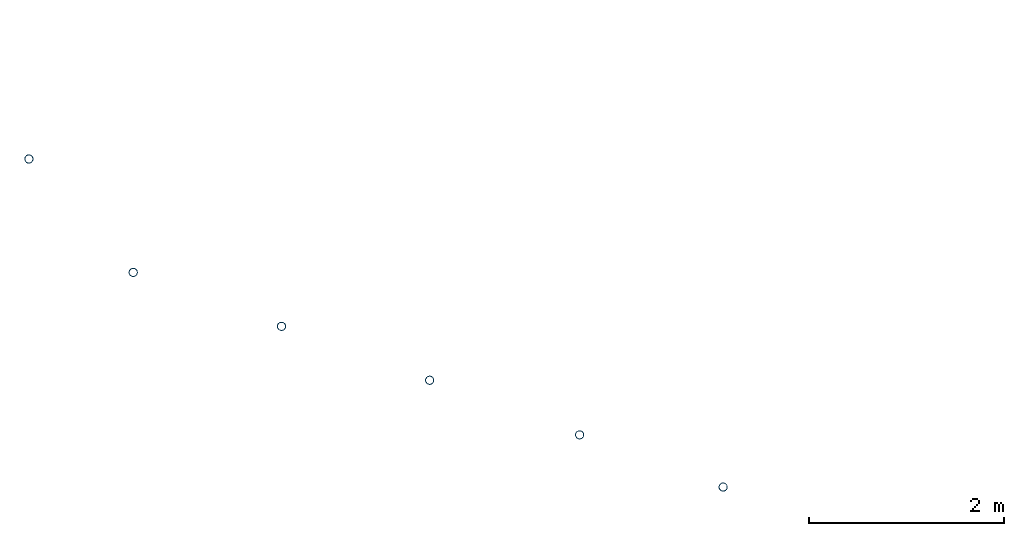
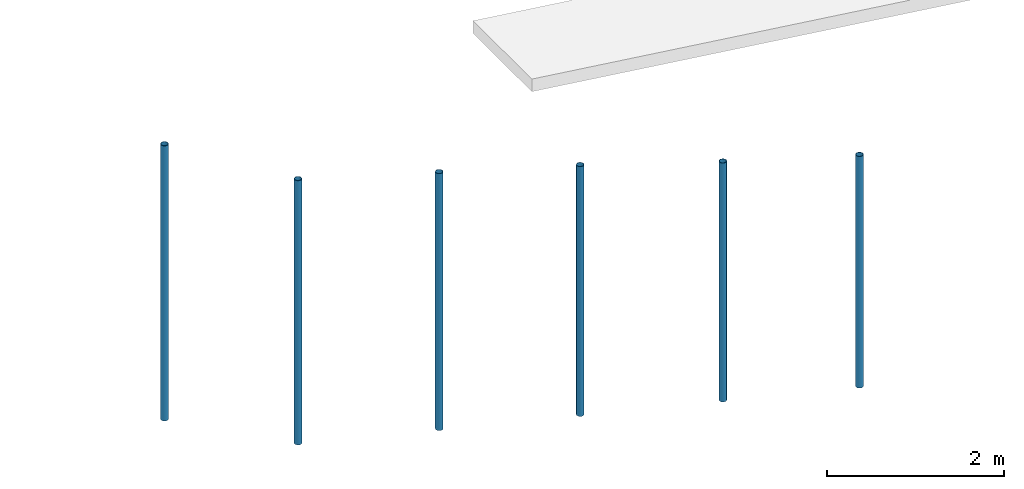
# One storey, part 1 of 5: 6 columns.
"""IFC2X3 building model written with IfcOpenShell, lengths in millimetres."""

from ifc_helpers import new_model, entity, si_unit, converted_unit, derived_unit, direction, frame, frame_2d, origin, place, context, subcontext, project, spatial, hollow_circle, extrude, source, transform, mapped, material, material_list, type_object, type_shapes, element, save


model = new_model("IFC2X3")

# Units and contexts
model_context = context("Model", 3, precision=0.01, world=origin(), true_north=direction((6.12303176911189e-17, 1.0)))
context_of_model = context(None, 3, precision=0.01, world=origin(), true_north=direction((6.12303176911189e-17, 1.0)))
body_context = subcontext(model_context, "Body", "Model", "MODEL_VIEW")
ifc_project = project(units=[si_unit("LENGTHUNIT", "METRE", prefix="MILLI"), si_unit("AREAUNIT", "SQUARE_METRE"), si_unit("VOLUMEUNIT", "CUBIC_METRE"), converted_unit("PLANEANGLEUNIT", "DEGREE", entity("IfcRatioMeasure", 0.0174532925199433), si_unit("PLANEANGLEUNIT", "RADIAN"), dimensions=[0, 0, 0, 0, 0, 0, 0]), si_unit("MASSUNIT", "GRAM", prefix="KILO"), derived_unit("MASSDENSITYUNIT", [(si_unit("MASSUNIT", "GRAM", prefix="KILO"), 1), (si_unit("LENGTHUNIT", "METRE"), -3)]), derived_unit("MOMENTOFINERTIAUNIT", [(si_unit("LENGTHUNIT", "METRE"), 4)]), si_unit("TIMEUNIT", "SECOND"), si_unit("FREQUENCYUNIT", "HERTZ"), si_unit("THERMODYNAMICTEMPERATUREUNIT", "DEGREE_CELSIUS"), derived_unit("THERMALTRANSMITTANCEUNIT", [(si_unit("MASSUNIT", "GRAM", prefix="KILO"), 1), (si_unit("THERMODYNAMICTEMPERATUREUNIT", "KELVIN"), -1), (si_unit("TIMEUNIT", "SECOND"), -3)]), derived_unit("VOLUMETRICFLOWRATEUNIT", [(si_unit("LENGTHUNIT", "METRE"), 3), (si_unit("TIMEUNIT", "SECOND"), -1)]), si_unit("ELECTRICCURRENTUNIT", "AMPERE"), si_unit("ELECTRICVOLTAGEUNIT", "VOLT"), si_unit("POWERUNIT", "WATT"), si_unit("FORCEUNIT", "NEWTON", prefix="KILO"), si_unit("ILLUMINANCEUNIT", "LUX"), si_unit("LUMINOUSFLUXUNIT", "LUMEN"), si_unit("LUMINOUSINTENSITYUNIT", "CANDELA"), derived_unit("USERDEFINED", [(si_unit("MASSUNIT", "GRAM", prefix="KILO"), -1), (si_unit("LENGTHUNIT", "METRE"), -2), (si_unit("TIMEUNIT", "SECOND"), 3), (si_unit("LUMINOUSFLUXUNIT", "LUMEN"), 1)]), derived_unit("LINEARVELOCITYUNIT", [(si_unit("LENGTHUNIT", "METRE"), 1), (si_unit("TIMEUNIT", "SECOND"), -1)]), si_unit("PRESSUREUNIT", "PASCAL"), derived_unit("USERDEFINED", [(si_unit("LENGTHUNIT", "METRE"), -2), (si_unit("MASSUNIT", "GRAM", prefix="KILO"), 1), (si_unit("TIMEUNIT", "SECOND"), -2)]), derived_unit("LINEARFORCEUNIT", [(si_unit("MASSUNIT", "GRAM", prefix="KILO"), 1), (si_unit("LENGTHUNIT", "METRE"), 1), (si_unit("TIMEUNIT", "SECOND"), -2), (si_unit("LENGTHUNIT", "METRE"), -1)]), derived_unit("PLANARFORCEUNIT", [(si_unit("MASSUNIT", "GRAM", prefix="KILO"), 1), (si_unit("LENGTHUNIT", "METRE"), 1), (si_unit("TIMEUNIT", "SECOND"), -2), (si_unit("LENGTHUNIT", "METRE"), -2)])], contexts=[model_context, context_of_model])

# Site, building, storey
site_placement = place(None, origin())
site = spatial("IfcSite", under=ifc_project, at=site_placement, Name="Default", CompositionType="ELEMENT")
building_placement = place(site_placement, origin())
building = spatial("IfcBuilding", under=site, at=building_placement, Name="IFc", CompositionType="ELEMENT")
storey_placement = place(building_placement, frame((0.0, 0.0, 3000.0)))
storey = spatial("IfcBuildingStorey", under=building, at=storey_placement, Name="01 1e verd. b.k. ruwe vloer", CompositionType="ELEMENT", Elevation=3000.00000000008)

# Columns
ifc_material_1 = material(Name="IMd_staal")
ifc_material_2 = material(Name="<Unnamed>")
ifc_material_list_1 = material_list([ifc_material_2, ifc_material_1])
column_type_1 = type_object("IfcColumnType", Name="NLRS_28_SC_TLB_kolom buis_generiek_ISR:ø88.9x5", PredefinedType="COLUMN", material=ifc_material_list_1)
shared_shape_1 = source(origin(), body_context, "Body", "SweptSolid", [
    extrude(hollow_circle(Radius=44.45, WallThickness=4.99999999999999, at=frame_2d((-1.68427735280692e-15, -5.64975186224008e-14), x_axis=(1.0, 0.0))), frame((0.0, 0.0, 3500.0), z_axis=(0.0, 0.0, 1.0), x_axis=(-1.0, 0.0, 0.0)), (0.0, 0.0, 1.0), 3200.0),
])
type_shapes(column_type_1, [shared_shape_1])
column_1_placement = place(storey_placement, frame((17157.0903559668, 6140.88497529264, -3000.0)))
element("IfcColumn", 1, at=column_1_placement, inside=storey, type_object=column_type_1, material=ifc_material_1, Name="NLRS_28_SC_TLB_kolom buis_generiek_ISR:ø88.9x5", ObjectType="NLRS_28_SC_TLB_kolom buis_generiek_ISR:ø88.9x5", context=body_context, shape_type="MappedRepresentation", body=[
    mapped(shared_shape_1, transform((0.0, 0.0, 0.0), scale=1.0)),
])
ifc_material_list_2 = material_list([ifc_material_2, ifc_material_1])
column_type_2 = type_object("IfcColumnType", Name="NLRS_28_SC_TLB_kolom buis_generiek_ISR:ø88.9x5", PredefinedType="COLUMN", material=ifc_material_list_2)
shared_shape_2 = source(origin(), body_context, "Body", "SweptSolid", [
    extrude(hollow_circle(Radius=44.45, WallThickness=4.99999999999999, at=frame_2d((-1.68427735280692e-15, -5.64975186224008e-14), x_axis=(1.0, 0.0))), frame((0.0, 0.0, 3500.0), z_axis=(0.0, 0.0, 1.0), x_axis=(-1.0, 0.0, 0.0)), (0.0, 0.0, 1.0), 3300.0),
])
type_shapes(column_type_2, [shared_shape_2])
column_2_placement = place(storey_placement, frame((15681.9195075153, 6677.80325458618, -3000.0)))
element("IfcColumn", 2, at=column_2_placement, inside=storey, type_object=column_type_2, material=ifc_material_1, Name="NLRS_28_SC_TLB_kolom buis_generiek_ISR:ø88.9x5", ObjectType="NLRS_28_SC_TLB_kolom buis_generiek_ISR:ø88.9x5", context=body_context, shape_type="MappedRepresentation", body=[
    mapped(shared_shape_2, transform((0.0, 0.0, 0.0), scale=1.0)),
])
ifc_material_list_3 = material_list([ifc_material_2, ifc_material_1])
column_type_3 = type_object("IfcColumnType", Name="NLRS_28_SC_TLB_kolom buis_generiek_ISR:ø88.9x5", PredefinedType="COLUMN", material=ifc_material_list_3)
shared_shape_3 = source(origin(), body_context, "Body", "SweptSolid", [
    extrude(hollow_circle(Radius=44.45, WallThickness=4.99999999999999, at=frame_2d((-1.68427735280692e-15, -5.64975186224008e-14), x_axis=(1.0, 0.0))), frame((0.0, 0.0, 3500.0), z_axis=(0.0, 0.0, 1.0), x_axis=(-1.0, 0.0, 0.0)), (0.0, 0.0, 1.0), 3450.0),
])
type_shapes(column_type_3, [shared_shape_3])
column_3_placement = place(storey_placement, frame((14140.7897516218, 7238.72861287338, -3000.0)))
element("IfcColumn", 3, at=column_3_placement, inside=storey, type_object=column_type_3, material=ifc_material_1, Name="NLRS_28_SC_TLB_kolom buis_generiek_ISR:ø88.9x5", ObjectType="NLRS_28_SC_TLB_kolom buis_generiek_ISR:ø88.9x5", context=body_context, shape_type="MappedRepresentation", body=[
    mapped(shared_shape_3, transform((0.0, 0.0, 0.0), scale=1.0)),
])
ifc_material_list_4 = material_list([ifc_material_2, ifc_material_1])
column_type_4 = type_object("IfcColumnType", Name="NLRS_28_SC_TLB_kolom buis_generiek_ISR:ø88.9x5", PredefinedType="COLUMN", material=ifc_material_list_4)
shared_shape_4 = source(origin(), body_context, "Body", "SweptSolid", [
    extrude(hollow_circle(Radius=44.45, WallThickness=4.99999999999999, at=frame_2d((-1.68427735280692e-15, -5.64975186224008e-14), x_axis=(1.0, 0.0))), frame((0.0, 0.0, 3500.0), z_axis=(0.0, 0.0, 1.0), x_axis=(-1.0, 0.0, 0.0)), (0.0, 0.0, 1.0), 3550.0),
])
type_shapes(column_type_4, [shared_shape_4])
column_4_placement = place(storey_placement, frame((12618.4342909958, 7792.82068651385, -3000.0)))
element("IfcColumn", 4, at=column_4_placement, inside=storey, type_object=column_type_4, material=ifc_material_1, Name="NLRS_28_SC_TLB_kolom buis_generiek_ISR:ø88.9x5", ObjectType="NLRS_28_SC_TLB_kolom buis_generiek_ISR:ø88.9x5", context=body_context, shape_type="MappedRepresentation", body=[
    mapped(shared_shape_4, transform((0.0, 0.0, 0.0), scale=1.0)),
])
ifc_material_list_5 = material_list([ifc_material_2, ifc_material_1])
column_type_5 = type_object("IfcColumnType", Name="NLRS_28_SC_TLB_kolom buis_generiek_ISR:ø88.9x5", PredefinedType="COLUMN", material=ifc_material_list_5)
shared_shape_5 = source(origin(), body_context, "Body", "SweptSolid", [
    extrude(hollow_circle(Radius=44.45, WallThickness=4.99999999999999, at=frame_2d((-1.68427735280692e-15, -5.64975186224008e-14), x_axis=(1.0, 0.0))), frame((0.0, 0.0, 3500.0), z_axis=(0.0, 0.0, 1.0), x_axis=(-1.0, 0.0, 0.0)), (0.0, 0.0, 1.0), 3650.0),
])
type_shapes(column_type_5, [shared_shape_5])
column_5_placement = place(storey_placement, frame((11094.4304625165, 8347.51271698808, -3000.0)))
element("IfcColumn", 5, at=column_5_placement, inside=storey, type_object=column_type_5, material=ifc_material_1, Name="NLRS_28_SC_TLB_kolom buis_generiek_ISR:ø88.9x5", ObjectType="NLRS_28_SC_TLB_kolom buis_generiek_ISR:ø88.9x5", context=body_context, shape_type="MappedRepresentation", body=[
    mapped(shared_shape_5, transform((0.0, 0.0, 0.0), scale=1.0)),
])
ifc_material_list_6 = material_list([ifc_material_2, ifc_material_1])
column_type_6 = type_object("IfcColumnType", Name="NLRS_28_SC_TLB_kolom buis_generiek_ISR:ø88.9x5", PredefinedType="COLUMN", material=ifc_material_list_6)
shared_shape_6 = source(origin(), body_context, "Body", "SweptSolid", [
    extrude(hollow_circle(Radius=44.45, WallThickness=4.99999999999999, at=frame_2d((-1.68427735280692e-15, -5.64975186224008e-14), x_axis=(1.0, 0.0))), frame((0.0, 0.0, 3500.0), z_axis=(0.0, 0.0, 1.0), x_axis=(-1.0, 0.0, 0.0)), (0.0, 0.0, 1.0), 3800.0),
])
type_shapes(column_type_6, [shared_shape_6])
column_6_placement = place(storey_placement, frame((10022.7239754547, 9512.91800740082, -3000.0)))
element("IfcColumn", 6, at=column_6_placement, inside=storey, type_object=column_type_6, material=ifc_material_1, Name="NLRS_28_SC_TLB_kolom buis_generiek_ISR:ø88.9x5", ObjectType="NLRS_28_SC_TLB_kolom buis_generiek_ISR:ø88.9x5", context=body_context, shape_type="MappedRepresentation", body=[
    mapped(shared_shape_6, transform((0.0, 0.0, 0.0), scale=1.0)),
])

save(model, "model.ifc")
